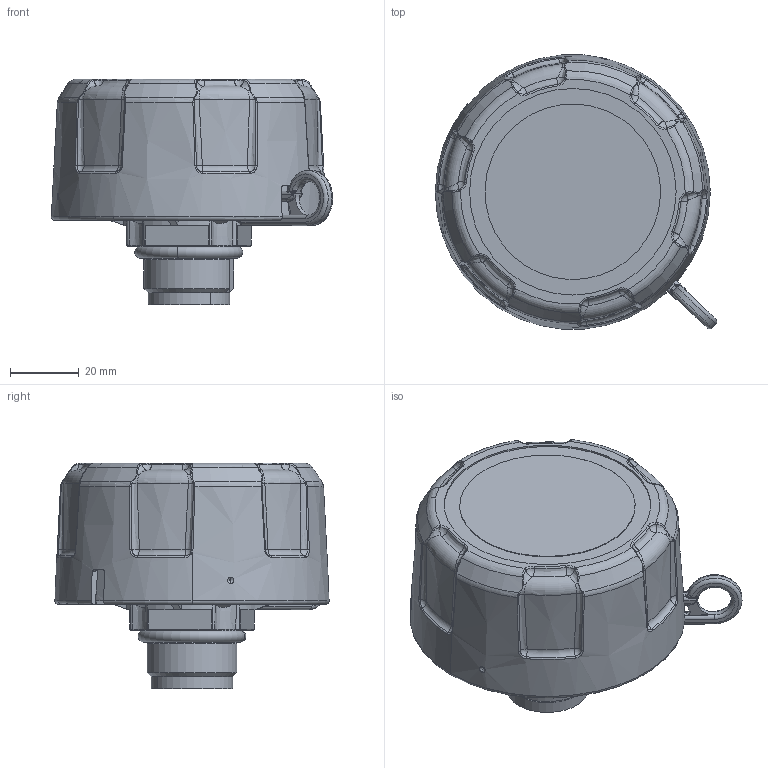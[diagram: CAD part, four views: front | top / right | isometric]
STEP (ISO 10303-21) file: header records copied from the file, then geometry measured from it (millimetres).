
FILE_DESCRIPTION((''),'2;1');
FILE_NAME('BREP_WITH_VOIDS_27948_1','2017-09-25T',('f.kollmann'),(''),'PRO/ENGINEER BY PARAMETRIC TECHNOLOGY CORPORATION, 2015110','PRO/ENGINEER BY PARAMETRIC TECHNOLOGY CORPORATION, 2015110','');
FILE_SCHEMA(('AUTOMOTIVE_DESIGN { 1 0 10303 214 1 1 1 1 }'));
Length unit declared in the file: millimetre
Products named in the file (1): BREP_WITH_VOIDS_27948_1
Bounding box: 81.74 x 79.62 x 65.5 mm (x, y, z)
Volume: 201030.8 mm3; surface area: 26367.2 mm2
Topology: 1 solids, 7 shells, 525 faces, 1370 edges, 850 vertices
Faces by surface type: bspline 204, plane 90, cone 85, cylinder 78, torus 54, sphere 14
Entity records: 32266 total; most frequent: CARTESIAN_POINT 12722, ORIENTED_EDGE 2712, PRESENTATION_STYLE_ASSIGNMENT 1882, DIRECTION 1658, STYLED_ITEM 1357, CURVE_STYLE 1356, EDGE_CURVE 1356, VERTEX_POINT 850
